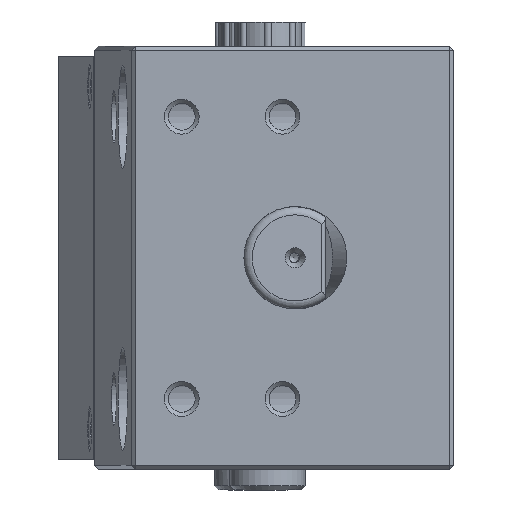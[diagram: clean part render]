
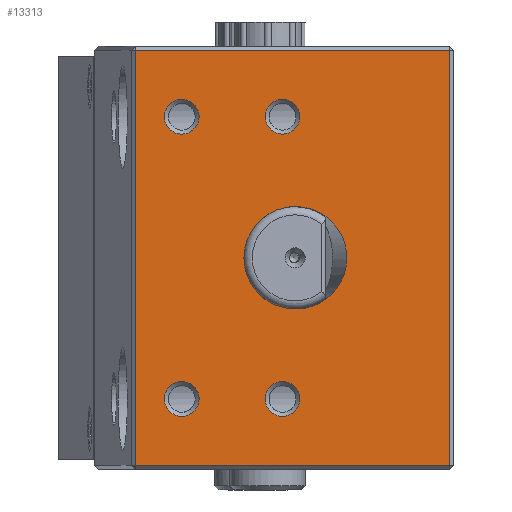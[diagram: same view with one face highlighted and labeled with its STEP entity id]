
A CAD part, left-side view. The second image highlights one B-rep face of the part: STEP entity #13313.
In plain terms, the highlighted planar face has unit normal (-1, 0, 0).
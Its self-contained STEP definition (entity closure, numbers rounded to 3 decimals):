
#159=ELLIPSE('',#14310,12.764,12.715);
#408=LINE('',#19604,#1362);
#409=LINE('',#19606,#1363);
#410=LINE('',#19608,#1364);
#411=LINE('',#19609,#1365);
#1362=VECTOR('',#15947,103.);
#1363=VECTOR('',#15948,77.935);
#1364=VECTOR('',#15949,103.);
#1365=VECTOR('',#15950,77.935);
#2433=PLANE('',#14331);
#2910=FACE_BOUND('',#4510,.T.);
#2911=FACE_BOUND('',#4511,.T.);
#2912=FACE_BOUND('',#4512,.T.);
#2913=FACE_BOUND('',#4513,.T.);
#2914=FACE_BOUND('',#4514,.T.);
#3563=FACE_OUTER_BOUND('',#4509,.T.);
#4509=EDGE_LOOP('',(#9356,#9357,#9358,#9359));
#4510=EDGE_LOOP('',(#9360));
#4511=EDGE_LOOP('',(#9361));
#4512=EDGE_LOOP('',(#9362));
#4513=EDGE_LOOP('',(#9363));
#4514=EDGE_LOOP('',(#9364));
#5468=CIRCLE('',#14248,4.315);
#5470=CIRCLE('',#14252,4.315);
#5472=CIRCLE('',#14256,4.315);
#5474=CIRCLE('',#14260,4.315);
#5962=VERTEX_POINT('',#19166);
#5965=VERTEX_POINT('',#19207);
#5968=VERTEX_POINT('',#19248);
#5971=VERTEX_POINT('',#19289);
#6008=VERTEX_POINT('',#19515);
#6042=VERTEX_POINT('',#19602);
#6043=VERTEX_POINT('',#19603);
#6044=VERTEX_POINT('',#19605);
#6045=VERTEX_POINT('',#19607);
#7256=EDGE_CURVE('',#5962,#5962,#5468,.T.);
#7259=EDGE_CURVE('',#5965,#5965,#5470,.T.);
#7262=EDGE_CURVE('',#5968,#5968,#5472,.T.);
#7265=EDGE_CURVE('',#5971,#5971,#5474,.T.);
#7306=EDGE_CURVE('',#6008,#6008,#159,.T.);
#7341=EDGE_CURVE('',#6042,#6043,#408,.T.);
#7342=EDGE_CURVE('',#6044,#6042,#409,.T.);
#7343=EDGE_CURVE('',#6045,#6044,#410,.T.);
#7344=EDGE_CURVE('',#6043,#6045,#411,.T.);
#9356=ORIENTED_EDGE('',*,*,#7341,.F.);
#9357=ORIENTED_EDGE('',*,*,#7342,.F.);
#9358=ORIENTED_EDGE('',*,*,#7343,.F.);
#9359=ORIENTED_EDGE('',*,*,#7344,.F.);
#9360=ORIENTED_EDGE('',*,*,#7306,.T.);
#9361=ORIENTED_EDGE('',*,*,#7256,.T.);
#9362=ORIENTED_EDGE('',*,*,#7259,.T.);
#9363=ORIENTED_EDGE('',*,*,#7262,.T.);
#9364=ORIENTED_EDGE('',*,*,#7265,.T.);
#13313=ADVANCED_FACE('',(#3563,#2910,#2911,#2912,#2913,#2914),#2433,.T.);
#14248=AXIS2_PLACEMENT_3D('',#19167,#15750,#15751);
#14252=AXIS2_PLACEMENT_3D('',#19208,#15758,#15759);
#14256=AXIS2_PLACEMENT_3D('',#19249,#15766,#15767);
#14260=AXIS2_PLACEMENT_3D('',#19290,#15774,#15775);
#14310=AXIS2_PLACEMENT_3D('',#19516,#15884,#15885);
#14331=AXIS2_PLACEMENT_3D('',#19601,#15945,#15946);
#15750=DIRECTION('center_axis',(1.,0.,0.));
#15751=DIRECTION('ref_axis',(0.,0.,1.));
#15758=DIRECTION('center_axis',(1.,0.,0.));
#15759=DIRECTION('ref_axis',(0.,0.,1.));
#15766=DIRECTION('center_axis',(1.,0.,0.));
#15767=DIRECTION('ref_axis',(0.,0.,1.));
#15774=DIRECTION('center_axis',(1.,0.,0.));
#15775=DIRECTION('ref_axis',(0.,0.,1.));
#15884=DIRECTION('center_axis',(1.,0.,0.));
#15885=DIRECTION('ref_axis',(0.,-1.,0.));
#15945=DIRECTION('center_axis',(-1.,0.,0.));
#15946=DIRECTION('ref_axis',(0.,0.,1.));
#15947=DIRECTION('',(0.,0.,1.));
#15948=DIRECTION('',(0.,1.,0.));
#15949=DIRECTION('',(0.,0.,-1.));
#15950=DIRECTION('',(0.,-1.,0.));
#19166=CARTESIAN_POINT('',(0.,3.2,-30.685));
#19167=CARTESIAN_POINT('Origin',(0.,3.2,-35.));
#19207=CARTESIAN_POINT('',(0.,28.2,-30.685));
#19208=CARTESIAN_POINT('Origin',(0.,28.2,-35.));
#19248=CARTESIAN_POINT('',(0.,3.2,39.315));
#19249=CARTESIAN_POINT('Origin',(0.,3.2,35.));
#19289=CARTESIAN_POINT('',(0.,28.2,39.315));
#19290=CARTESIAN_POINT('Origin',(0.,28.2,35.));
#19515=CARTESIAN_POINT('',(0.,12.764,0.));
#19516=CARTESIAN_POINT('Origin',(0.,0.,0.));
#19601=CARTESIAN_POINT('Origin',(0.,-39.3,0.));
#19602=CARTESIAN_POINT('',(0.,39.635,-51.5));
#19603=CARTESIAN_POINT('',(0.,39.635,51.5));
#19604=CARTESIAN_POINT('',(0.,39.635,0.));
#19605=CARTESIAN_POINT('',(0.,-38.3,-51.5));
#19606=CARTESIAN_POINT('',(0.,-18.314,-51.5));
#19607=CARTESIAN_POINT('',(0.,-38.3,51.5));
#19608=CARTESIAN_POINT('',(0.,-38.3,0.));
#19609=CARTESIAN_POINT('',(0.,-18.314,51.5));
